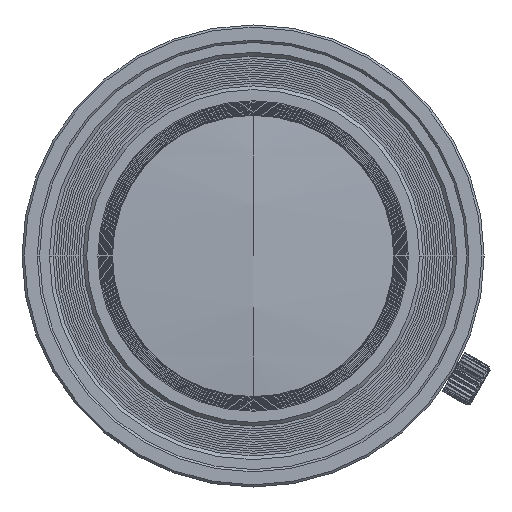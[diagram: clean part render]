
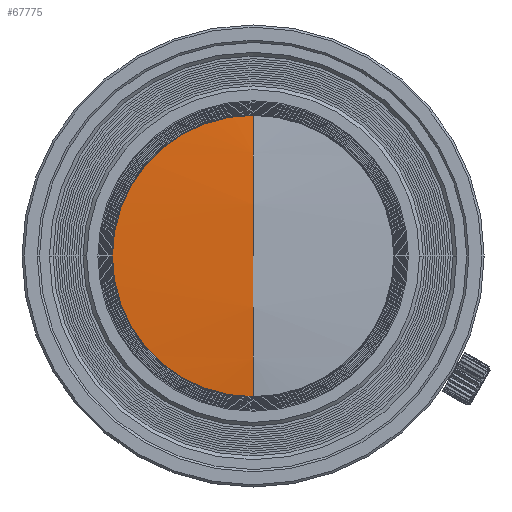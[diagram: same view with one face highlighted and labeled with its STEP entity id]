
A CAD part, left-side view. The second image highlights one B-rep face of the part: STEP entity #67775.
In plain terms, the highlighted spherical face has radius 203.104 mm.
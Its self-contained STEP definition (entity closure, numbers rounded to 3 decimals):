
#24909=CARTESIAN_POINT('',(-60.903,0.,0.));
#24910=DIRECTION('',(1.,0.,0.));
#24911=DIRECTION('',(0.,0.,-1.));
#24912=AXIS2_PLACEMENT_3D('',#24909,#24910,#24911);
#24914=CARTESIAN_POINT('',(141.142,0.,0.));
#24915=DIRECTION('',(0.,1.,0.));
#24916=DIRECTION('',(-1.,0.,0.));
#24917=AXIS2_PLACEMENT_3D('',#24914,#24915,#24916);
#24924=CARTESIAN_POINT('',(141.142,0.,0.));
#24925=DIRECTION('',(0.,1.,0.));
#24926=DIRECTION('',(-0.995,0.,-0.102));
#24927=AXIS2_PLACEMENT_3D('',#24924,#24925,#24926);
#34150=CARTESIAN_POINT('',(-60.903,0.,-20.71));
#34151=VERTEX_POINT('',#34150);
#34152=CARTESIAN_POINT('',(-60.903,0.,20.71));
#34153=VERTEX_POINT('',#34152);
#34154=CARTESIAN_POINT('',(-61.962,0.,0.));
#34155=VERTEX_POINT('',#34154);
#67763=CARTESIAN_POINT('',(141.142,0.,0.));
#67764=DIRECTION('',(1.,0.,0.));
#67765=DIRECTION('',(0.,0.,-1.));
#67766=AXIS2_PLACEMENT_3D('',#67763,#67764,#67765);
#67767=SPHERICAL_SURFACE('',#67766,203.104);
#67769=ORIENTED_EDGE('',*,*,#67768,.F.);
#67771=ORIENTED_EDGE('',*,*,#67770,.F.);
#67772=ORIENTED_EDGE('',*,*,#67757,.T.);
#67773=EDGE_LOOP('',(#67769,#67771,#67772));
#67774=FACE_OUTER_BOUND('',#67773,.F.);
#24913=CIRCLE('',#24912,20.71);
#24918=CIRCLE('',#24917,203.104);
#24928=CIRCLE('',#24927,203.104);
#67757=EDGE_CURVE('',#34151,#34153,#24913,.T.);
#67768=EDGE_CURVE('',#34155,#34153,#24918,.T.);
#67770=EDGE_CURVE('',#34151,#34155,#24928,.T.);
#67775=ADVANCED_FACE('',(#67774),#67767,.T.);
